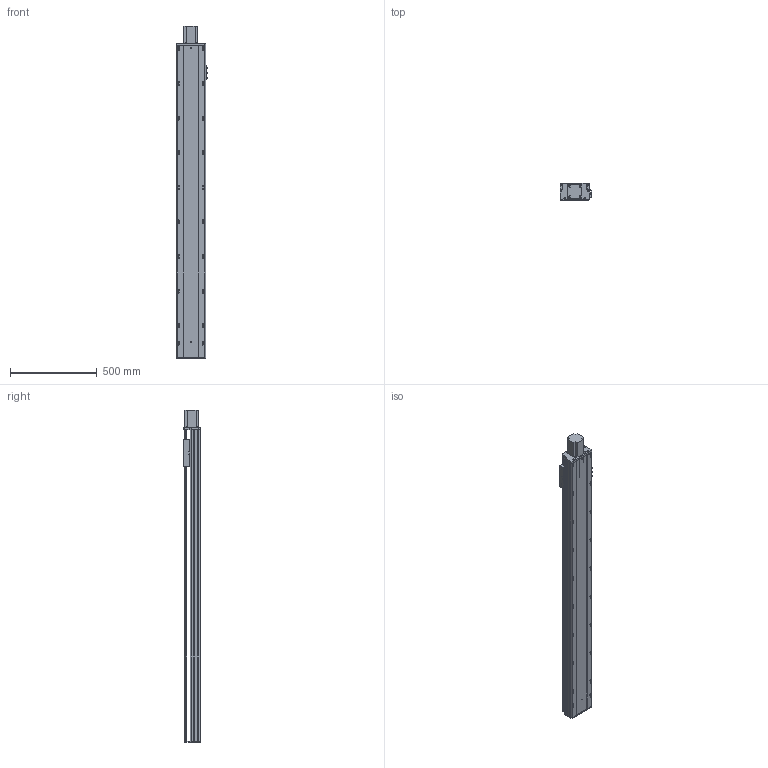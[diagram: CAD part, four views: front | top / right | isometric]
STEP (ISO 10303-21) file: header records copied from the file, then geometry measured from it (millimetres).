
FILE_DESCRIPTION (( 'STEP AP203' ), '1' );
FILE_NAME ('Y170-D10-S1550-BD-P750W.STEP', '2020-01-22T07:19:12', ( '微软用户' ), ( '微软中国' ), 'SwSTEP 2.0', 'SolidWorks 2017', '' );
FILE_SCHEMA (( 'CONFIG_CONTROL_DESIGN' ));
Length unit declared in the file: millimetre
Products named in the file (10): Y170-萇儂楊擘啣--; 135-盓傅釱-FK15; 侂狟750W; Y170耜裔--準---; Y170-陔遴奻裔-BD; Y170--雄赽釱-梓--; YD-Y100-135-新外置传感挡片(通用）; Y170-D10-S1550-BD-P750W; Y100-135俋离換覜ん; 170--掛极-BD
Assembly tree (11 placements, depth 2):
  Y170-D10-S1550-BD-P750W
    YD-Y100-135-新外置传感挡片(通用）
    Y100-135俋离換覜ん  x3
    170--掛极-BD
    Y170-萇儂楊擘啣--
    135-盓傅釱-FK15
    侂狟750W
    Y170耜裔--準---
    Y170-陔遴奻裔-BD
    Y170--雄赽釱-梓--
Bounding box: 183.5 x 97 x 1918.5 mm (x, y, z)
Volume: 7894392.4 mm3; surface area: 2741372.3 mm2
Topology: 11 solids, 11 shells, 864 faces, 2499 edges, 1656 vertices
Faces by surface type: cylinder 474, plane 388, torus 2
Entity records: 28671 total; most frequent: CARTESIAN_POINT 5299, DIRECTION 4745, ORIENTED_EDGE 4662, EDGE_CURVE 2331, AXIS2_PLACEMENT_3D 1718, VERTEX_POINT 1544, VECTOR 1309, LINE 1309
